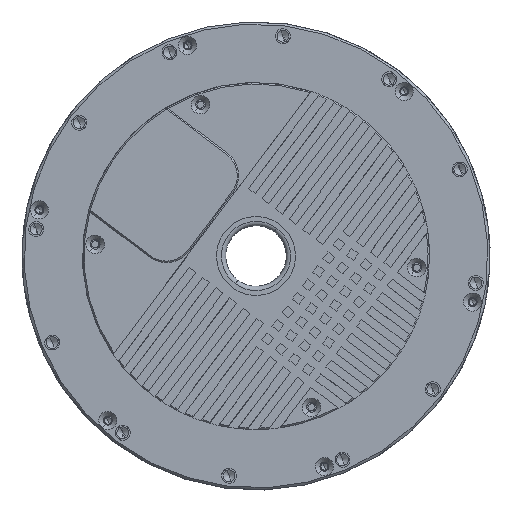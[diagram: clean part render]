
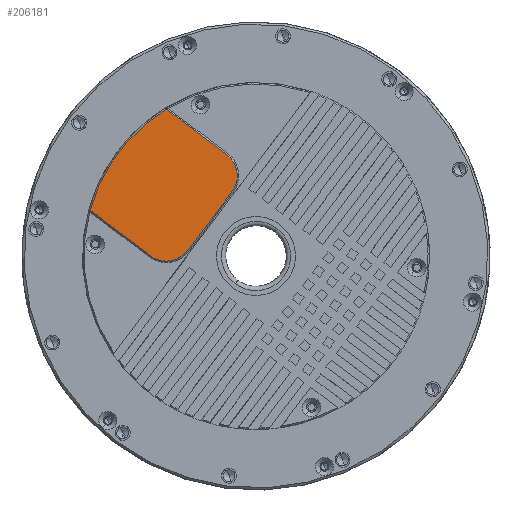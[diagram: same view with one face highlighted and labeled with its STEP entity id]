
A CAD part, front view. The second image highlights one B-rep face of the part: STEP entity #206181.
In plain terms, the highlighted planar face has unit normal (0, -1, 0).
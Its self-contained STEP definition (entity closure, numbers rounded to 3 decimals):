
#4750 = LINE ( 'NONE', #67122, #129904 ) ;
#6499 = VERTEX_POINT ( 'NONE', #54946 ) ;
#6862 = DIRECTION ( 'NONE',  ( 0.799, 0., -0.602 ) ) ;
#7307 = CARTESIAN_POINT ( 'NONE',  ( -10.418, -1., 36.024 ) ) ;
#11300 = DIRECTION ( 'NONE',  ( 0.602, 0., 0.799 ) ) ;
#16043 = CARTESIAN_POINT ( 'NONE',  ( 0., -1., 0. ) ) ;
#16552 = VECTOR ( 'NONE', #6862, 1000. ) ;
#18018 = VECTOR ( 'NONE', #162790, 1000. ) ;
#20964 = ORIENTED_EDGE ( 'NONE', *, *, #87773, .T. ) ;
#26185 = AXIS2_PLACEMENT_3D ( 'NONE', #155705, #136100, #202778 ) ;
#29915 = VERTEX_POINT ( 'NONE', #150676 ) ;
#37074 = DIRECTION ( 'NONE',  ( 0.602, 0., 0.799 ) ) ;
#47334 = DIRECTION ( 'NONE',  ( 0., -1., 0. ) ) ;
#54946 = CARTESIAN_POINT ( 'NONE',  ( -37.5, -1., 0.085 ) ) ;
#63290 = CARTESIAN_POINT ( 'NONE',  ( -16.372, -1., 12.337 ) ) ;
#63599 = ORIENTED_EDGE ( 'NONE', *, *, #100023, .T. ) ;
#67122 = CARTESIAN_POINT ( 'NONE',  ( 13.541, -1., 17.969 ) ) ;
#69386 = PLANE ( 'NONE',  #26185 ) ;
#70462 = FACE_OUTER_BOUND ( 'NONE', #88045, .T. ) ;
#73082 = DIRECTION ( 'NONE',  ( 0., -1., 0. ) ) ;
#78460 = VERTEX_POINT ( 'NONE', #81143 ) ;
#81143 = CARTESIAN_POINT ( 'NONE',  ( -31.741, -1., 52.091 ) ) ;
#84475 = VERTEX_POINT ( 'NONE', #7307 ) ;
#87773 = EDGE_CURVE ( 'NONE', #127015, #169650, #100393, .T. ) ;
#88045 = EDGE_LOOP ( 'NONE', ( #169053, #146859, #63599, #20964, #150538, #167076 ) ) ;
#89155 = CIRCLE ( 'NONE', #127738, 9.5 ) ;
#100023 = EDGE_CURVE ( 'NONE', #6499, #127015, #174879, .T. ) ;
#100393 = LINE ( 'NONE', #63290, #18018 ) ;
#101992 = CARTESIAN_POINT ( 'NONE',  ( -8.548, -1., 22.719 ) ) ;
#106970 = CARTESIAN_POINT ( 'NONE',  ( -16.135, -1., 28.437 ) ) ;
#122357 = EDGE_CURVE ( 'NONE', #78460, #29915, #156694, .T. ) ;
#127015 = VERTEX_POINT ( 'NONE', #195094 ) ;
#127738 = AXIS2_PLACEMENT_3D ( 'NONE', #106970, #73082, #37074 ) ;
#129371 = CARTESIAN_POINT ( 'NONE',  ( -31.783, -1., 7.672 ) ) ;
#129904 = VECTOR ( 'NONE', #133844, 1000. ) ;
#133844 = DIRECTION ( 'NONE',  ( -0.799, 0., 0.602 ) ) ;
#136100 = DIRECTION ( 'NONE',  ( 0., -1., 0. ) ) ;
#139629 = EDGE_CURVE ( 'NONE', #29915, #6499, #174147, .T. ) ;
#146859 = ORIENTED_EDGE ( 'NONE', *, *, #139629, .T. ) ;
#150538 = ORIENTED_EDGE ( 'NONE', *, *, #216142, .T. ) ;
#150676 = CARTESIAN_POINT ( 'NONE',  ( -58.822, -1., 16.153 ) ) ;
#154509 = CARTESIAN_POINT ( 'NONE',  ( -13.541, -1., -17.969 ) ) ;
#155705 = CARTESIAN_POINT ( 'NONE',  ( 0., -1., 0. ) ) ;
#156694 = CIRCLE ( 'NONE', #191645, 61. ) ;
#157552 = AXIS2_PLACEMENT_3D ( 'NONE', #129371, #47334, #11300 ) ;
#162790 = DIRECTION ( 'NONE',  ( 0.602, 0., 0.799 ) ) ;
#165839 = DIRECTION ( 'NONE',  ( 0.602, 0., 0.799 ) ) ;
#167076 = ORIENTED_EDGE ( 'NONE', *, *, #173830, .T. ) ;
#169053 = ORIENTED_EDGE ( 'NONE', *, *, #122357, .T. ) ;
#169650 = VERTEX_POINT ( 'NONE', #101992 ) ;
#173830 = EDGE_CURVE ( 'NONE', #84475, #78460, #4750, .T. ) ;
#174147 = LINE ( 'NONE', #154509, #16552 ) ;
#174879 = CIRCLE ( 'NONE', #157552, 9.5 ) ;
#191645 = AXIS2_PLACEMENT_3D ( 'NONE', #16043, #199717, #165839 ) ;
#195094 = CARTESIAN_POINT ( 'NONE',  ( -24.196, -1., 1.955 ) ) ;
#199717 = DIRECTION ( 'NONE',  ( 0., -1., 0. ) ) ;
#202778 = DIRECTION ( 'NONE',  ( 0.602, 0., 0.799 ) ) ;
#206181 = ADVANCED_FACE ( 'NONE', ( #70462 ), #69386, .T. ) ;
#216142 = EDGE_CURVE ( 'NONE', #169650, #84475, #89155, .T. ) ;
